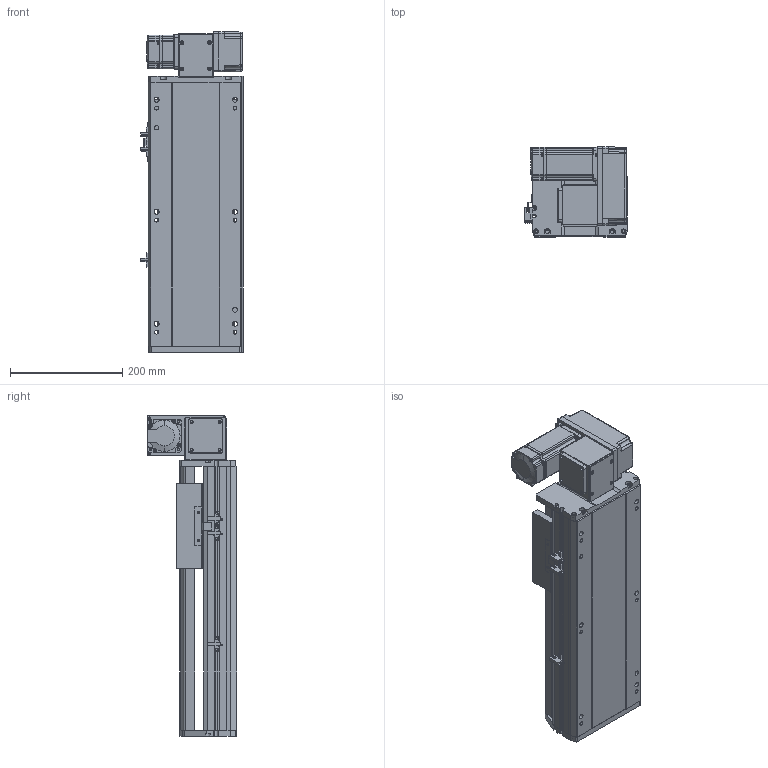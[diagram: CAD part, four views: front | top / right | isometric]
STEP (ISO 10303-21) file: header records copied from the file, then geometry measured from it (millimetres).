
FILE_DESCRIPTION (( 'STEP AP214' ), '1' );
FILE_NAME ('RTB17S-XX-200-RW-M40-C4.STEP', '2025-12-11T08:48:55', ( '' ), ( '' ), 'SwSTEP 2.0', 'SolidWorks 2018', '' );
FILE_SCHEMA (( 'AUTOMOTIVE_DESIGN' ));
Length unit declared in the file: millimetre
Products named in the file (14): RMP17S-L-014-T20--々湍釱^RTB17S-RW-々湍釱蚾饜-400W_RTB17S-XX-XX-RW-M40-C4; RTB14-L-018P^RTB17S-RW-々湍釱蚾饜-400W_RTB17S-XX-XX-RW-M40-C4; RTB14-L-017P^RTB17S-RW-々湍釱蚾饜-400W_RTB17S-XX-XX-RW-M40-C4; RTB14-L-008-M20--萇儂啣^RTB17S-RW-々湍釱蚾饜-400W_RTB17S-XX-XX-RW-M40-C4; OMRON EE-SX672 传感器^RTB17S-XX-XX-RW-M40-C4; 400W侜督萇儂^RTB17S-XX-XX-RW-M40-C4; RTB17S-RW-々湍釱蚾饜-400W^RTB17S-XX-XX-RW-M40-C4; RTH13-BL-012覜茼え俋离^RTB17S-XX-XX-RW-M40-C4; RTB17S-XX-200-RW-M40-C4; RTB17S-L-004佪裝蹟譫蟀諉釱^RTB17S-XX-XX-RW-M40-C4; RTB14-L-005P--轴承塑胶压盖^RTB17S-RW-皮带座装配-400W_RTB17S-XX-XX-RW-M40-C4; RTB17S-L-001耜醱啣^RTB17S-XX-XX-RW-M40-C4; RTB17S-L-007奻裔^RTB17S-XX-XX-RW-M40-C4; RTB17-R-011菁釱^RTB17S-XX-XX-RW-M40-C4
Assembly tree (16 placements, depth 3):
  RTB17S-XX-200-RW-M40-C4
    RTB17-R-011菁釱^RTB17S-XX-XX-RW-M40-C4
    RTB17S-L-007奻裔^RTB17S-XX-XX-RW-M40-C4
    OMRON EE-SX672 传感器^RTB17S-XX-XX-RW-M40-C4  x3
    RTB17S-L-001耜醱啣^RTB17S-XX-XX-RW-M40-C4
    400W侜督萇儂^RTB17S-XX-XX-RW-M40-C4
    RTB17S-L-004佪裝蹟譫蟀諉釱^RTB17S-XX-XX-RW-M40-C4
    RTH13-BL-012覜茼え俋离^RTB17S-XX-XX-RW-M40-C4
    RTB17S-RW-々湍釱蚾饜-400W^RTB17S-XX-XX-RW-M40-C4
      RMP17S-L-014-T20--々湍釱^RTB17S-RW-々湍釱蚾饜-400W_RTB17S-XX-XX-RW-M40-C4
      RTB14-L-005P--轴承塑胶压盖^RTB17S-RW-皮带座装配-400W_RTB17S-XX-XX-RW-M40-C4
      RTB14-L-008-M20--萇儂啣^RTB17S-RW-々湍釱蚾饜-400W_RTB17S-XX-XX-RW-M40-C4
      RTB14-L-017P^RTB17S-RW-々湍釱蚾饜-400W_RTB17S-XX-XX-RW-M40-C4  x2
      RTB14-L-018P^RTB17S-RW-々湍釱蚾饜-400W_RTB17S-XX-XX-RW-M40-C4
Bounding box: 183.5 x 160.5 x 572.5 mm (x, y, z)
Volume: 5853064.3 mm3; surface area: 785732.4 mm2
Topology: 15 solids, 15 shells, 2141 faces, 5871 edges, 3825 vertices
Faces by surface type: plane 1060, cylinder 633, bspline 301, cone 139, torus 8
Entity records: 59561 total; most frequent: CARTESIAN_POINT 16476, ORIENTED_EDGE 8586, DIRECTION 8036, EDGE_CURVE 4293, VERTEX_POINT 2813, AXIS2_PLACEMENT_3D 2743, LINE 2550, VECTOR 2550
